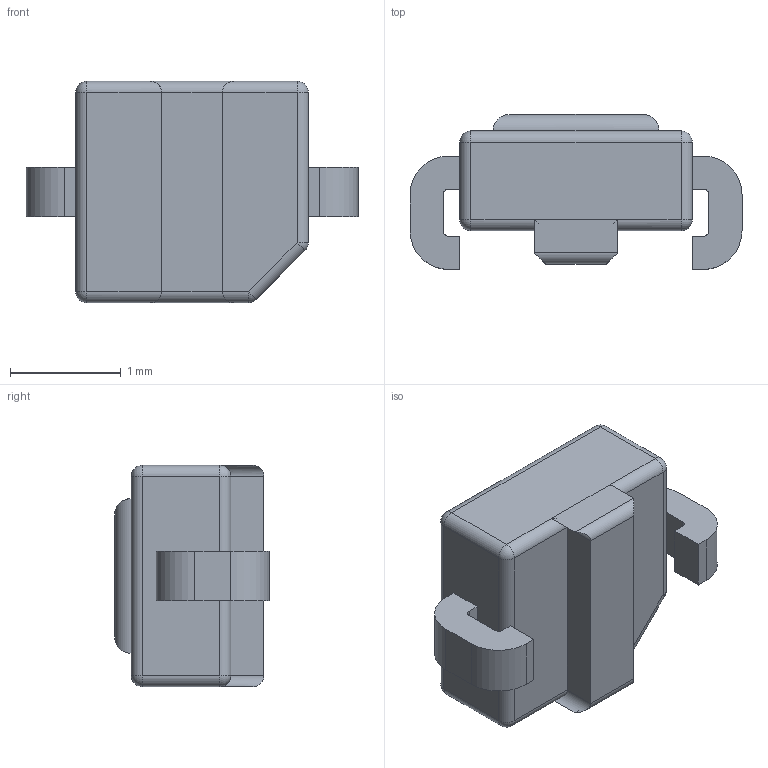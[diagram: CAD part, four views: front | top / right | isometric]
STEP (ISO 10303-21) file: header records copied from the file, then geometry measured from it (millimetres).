
FILE_DESCRIPTION (( 'STEP AP214' ), '1' );
FILE_NAME ( 'LEDM3020X140.STEP', '2013-08-13T09:48:04', ( '' ), ( '' ), 'FPX Expert 2013', 'PCB Libraries', '' );
FILE_SCHEMA (( 'AUTOMOTIVE_DESIGN' ));
Length unit declared in the file: millimetre
Products named in the file (1): LEDM3020X140
Bounding box: 3 x 1.4 x 2 mm (x, y, z)
Volume: 3.9 mm3; surface area: 23 mm2
Topology: 3 solids, 3 shells, 80 faces, 189 edges, 104 vertices
Faces by surface type: cylinder 36, plane 34, sphere 10
Entity records: 2396 total; most frequent: CARTESIAN_POINT 397, DIRECTION 366, ORIENTED_EDGE 350, EDGE_CURVE 175, AXIS2_PLACEMENT_3D 125, VECTOR 116, LINE 116, VERTEX_POINT 104
